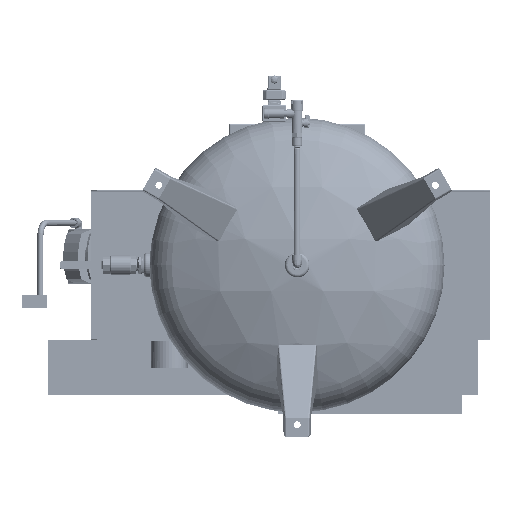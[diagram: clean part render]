
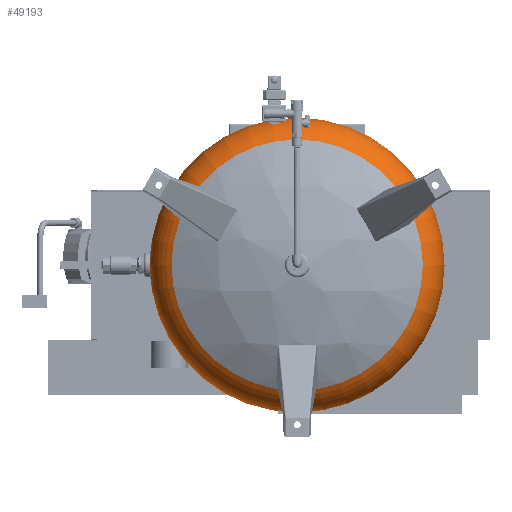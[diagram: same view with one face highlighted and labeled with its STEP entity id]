
A CAD part, front view. The second image highlights one B-rep face of the part: STEP entity #49193.
In plain terms, the highlighted toroidal (fillet/blend) face has major radius 215.9 mm and minor radius 88.9 mm.
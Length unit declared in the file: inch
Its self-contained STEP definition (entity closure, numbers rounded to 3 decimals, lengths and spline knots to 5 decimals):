
#147=TOROIDAL_SURFACE('',#52181,8.5,3.5);
#3621=FACE_OUTER_BOUND('',#6388,.T.);
#6388=EDGE_LOOP('',(#36123,#36124,#36125,#36126,#36127,#36128,#36129));
#10918=CIRCLE('',#52166,10.23161);
#10919=CIRCLE('',#52167,10.23161);
#10933=CIRCLE('',#52182,3.5);
#10934=CIRCLE('',#52183,12.);
#10935=CIRCLE('',#52184,12.);
#10936=CIRCLE('',#52185,12.);
#21329=VERTEX_POINT('',#166566);
#21330=VERTEX_POINT('',#166567);
#21356=VERTEX_POINT('',#166765);
#21357=VERTEX_POINT('',#166767);
#21358=VERTEX_POINT('',#166769);
#26926=EDGE_CURVE('',#21329,#21330,#10918,.T.);
#26927=EDGE_CURVE('',#21330,#21329,#10919,.T.);
#26953=EDGE_CURVE('',#21330,#21356,#10933,.T.);
#26954=EDGE_CURVE('',#21356,#21357,#10934,.T.);
#26955=EDGE_CURVE('',#21357,#21358,#10935,.T.);
#26956=EDGE_CURVE('',#21358,#21356,#10936,.T.);
#36123=ORIENTED_EDGE('',*,*,#26926,.F.);
#36124=ORIENTED_EDGE('',*,*,#26927,.F.);
#36125=ORIENTED_EDGE('',*,*,#26953,.T.);
#36126=ORIENTED_EDGE('',*,*,#26954,.T.);
#36127=ORIENTED_EDGE('',*,*,#26955,.T.);
#36128=ORIENTED_EDGE('',*,*,#26956,.T.);
#36129=ORIENTED_EDGE('',*,*,#26953,.F.);
#49193=ADVANCED_FACE('',(#3621),#147,.T.);
#52166=AXIS2_PLACEMENT_3D('',#166568,#57935,#57936);
#52167=AXIS2_PLACEMENT_3D('',#166569,#57937,#57938);
#52181=AXIS2_PLACEMENT_3D('',#166764,#57965,#57966);
#52182=AXIS2_PLACEMENT_3D('',#166766,#57967,#57968);
#52183=AXIS2_PLACEMENT_3D('',#166768,#57969,#57970);
#52184=AXIS2_PLACEMENT_3D('',#166770,#57971,#57972);
#52185=AXIS2_PLACEMENT_3D('',#166771,#57973,#57974);
#57935=DIRECTION('center_axis',(0.,-1.,0.));
#57936=DIRECTION('ref_axis',(1.,0.,0.));
#57937=DIRECTION('center_axis',(0.,-1.,0.));
#57938=DIRECTION('ref_axis',(1.,0.,0.));
#57965=DIRECTION('center_axis',(0.,-1.,0.));
#57966=DIRECTION('ref_axis',(0.,0.,-1.));
#57967=DIRECTION('center_axis',(-1.,0.,0.));
#57968=DIRECTION('ref_axis',(0.,0.,1.));
#57969=DIRECTION('center_axis',(0.,-1.,0.));
#57970=DIRECTION('ref_axis',(1.,0.,0.));
#57971=DIRECTION('center_axis',(0.,-1.,0.));
#57972=DIRECTION('ref_axis',(1.,0.,0.));
#57973=DIRECTION('center_axis',(0.,-1.,0.));
#57974=DIRECTION('ref_axis',(1.,0.,0.));
#166566=CARTESIAN_POINT('',(10.23161,-20.29163,0.));
#166567=CARTESIAN_POINT('',(0.,-20.29163,10.23161));
#166568=CARTESIAN_POINT('Origin',(0.,-20.29163,
0.));
#166569=CARTESIAN_POINT('Origin',(0.,-20.29163,
0.));
#166764=CARTESIAN_POINT('Origin',(0.,-17.25,0.));
#166765=CARTESIAN_POINT('',(0.,-17.25,12.));
#166766=CARTESIAN_POINT('Origin',(0.,-17.25,8.5));
#166767=CARTESIAN_POINT('',(-12.,-17.25,0.));
#166768=CARTESIAN_POINT('Origin',(0.,-17.25,0.));
#166769=CARTESIAN_POINT('',(12.,-17.25,0.));
#166770=CARTESIAN_POINT('Origin',(0.,-17.25,0.));
#166771=CARTESIAN_POINT('Origin',(0.,-17.25,0.));
